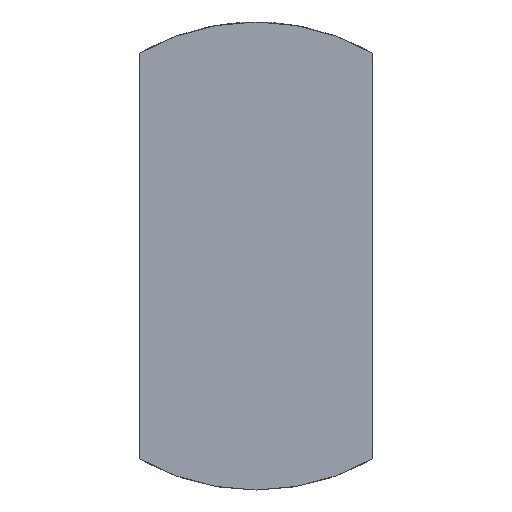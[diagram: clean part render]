
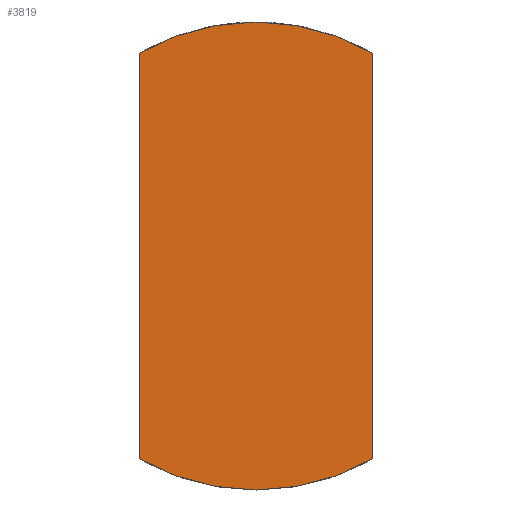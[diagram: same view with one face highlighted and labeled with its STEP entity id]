
A CAD part, front view. The second image highlights one B-rep face of the part: STEP entity #3819.
In plain terms, the highlighted planar face has unit normal (0, -1, 0).
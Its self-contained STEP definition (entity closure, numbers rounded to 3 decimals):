
#283 = LINE ( 'NONE', #3944, #923 ) ;
#587 = AXIS2_PLACEMENT_3D ( 'NONE', #3353, #3061, #3373 ) ;
#684 = DIRECTION ( 'NONE',  ( 0., -1., 0. ) ) ;
#711 = CARTESIAN_POINT ( 'NONE',  ( 0., 0., -75. ) ) ;
#815 = EDGE_CURVE ( 'NONE', #3283, #3371, #2330, .T. ) ;
#923 = VECTOR ( 'NONE', #3338, 1000. ) ;
#965 = VERTEX_POINT ( 'NONE', #2689 ) ;
#1009 = EDGE_CURVE ( 'NONE', #2394, #965, #2138, .T. ) ;
#1026 = CARTESIAN_POINT ( 'NONE',  ( 0., 0., 0. ) ) ;
#1049 = CIRCLE ( 'NONE', #1251, 75. ) ;
#1143 = CARTESIAN_POINT ( 'NONE',  ( -37.5, 0., 64.952 ) ) ;
#1169 = EDGE_LOOP ( 'NONE', ( #3797, #2317, #3417, #1820, #2373 ) ) ;
#1204 = DIRECTION ( 'NONE',  ( 0., 0., -1. ) ) ;
#1251 = AXIS2_PLACEMENT_3D ( 'NONE', #3991, #3696, #1204 ) ;
#1316 = DIRECTION ( 'NONE',  ( 0., 0., -1. ) ) ;
#1379 = AXIS2_PLACEMENT_3D ( 'NONE', #1026, #684, #1628 ) ;
#1399 = DIRECTION ( 'NONE',  ( 0., 0., -1. ) ) ;
#1523 = EDGE_CURVE ( 'NONE', #2661, #2394, #1049, .T. ) ;
#1572 = EDGE_CURVE ( 'NONE', #965, #3283, #283, .T. ) ;
#1606 = CARTESIAN_POINT ( 'NONE',  ( -37.5, 0., -64.952 ) ) ;
#1628 = DIRECTION ( 'NONE',  ( 0., 0., -1. ) ) ;
#1666 = PLANE ( 'NONE',  #1379 ) ;
#1820 = ORIENTED_EDGE ( 'NONE', *, *, #815, .T. ) ;
#1935 = DIRECTION ( 'NONE',  ( 0., -1., 0. ) ) ;
#2138 = CIRCLE ( 'NONE', #3251, 75. ) ;
#2317 = ORIENTED_EDGE ( 'NONE', *, *, #1009, .T. ) ;
#2330 = CIRCLE ( 'NONE', #587, 75. ) ;
#2345 = CARTESIAN_POINT ( 'NONE',  ( 37.5, 0., 64.952 ) ) ;
#2372 = LINE ( 'NONE', #3539, #3460 ) ;
#2373 = ORIENTED_EDGE ( 'NONE', *, *, #2835, .T. ) ;
#2394 = VERTEX_POINT ( 'NONE', #711 ) ;
#2661 = VERTEX_POINT ( 'NONE', #1606 ) ;
#2689 = CARTESIAN_POINT ( 'NONE',  ( 37.5, 0., -64.952 ) ) ;
#2835 = EDGE_CURVE ( 'NONE', #3371, #2661, #2372, .T. ) ;
#3061 = DIRECTION ( 'NONE',  ( 0., -1., 0. ) ) ;
#3165 = CARTESIAN_POINT ( 'NONE',  ( 0., 0., 0. ) ) ;
#3251 = AXIS2_PLACEMENT_3D ( 'NONE', #3165, #1935, #1316 ) ;
#3283 = VERTEX_POINT ( 'NONE', #2345 ) ;
#3338 = DIRECTION ( 'NONE',  ( 0., 0., 1. ) ) ;
#3353 = CARTESIAN_POINT ( 'NONE',  ( 0., 0., 0. ) ) ;
#3371 = VERTEX_POINT ( 'NONE', #1143 ) ;
#3373 = DIRECTION ( 'NONE',  ( 0., 0., -1. ) ) ;
#3417 = ORIENTED_EDGE ( 'NONE', *, *, #1572, .T. ) ;
#3460 = VECTOR ( 'NONE', #1399, 1000. ) ;
#3474 = FACE_OUTER_BOUND ( 'NONE', #1169, .T. ) ;
#3539 = CARTESIAN_POINT ( 'NONE',  ( -37.5, 0., 64.952 ) ) ;
#3696 = DIRECTION ( 'NONE',  ( 0., -1., 0. ) ) ;
#3797 = ORIENTED_EDGE ( 'NONE', *, *, #1523, .T. ) ;
#3819 = ADVANCED_FACE ( 'NONE', ( #3474 ), #1666, .T. ) ;
#3944 = CARTESIAN_POINT ( 'NONE',  ( 37.5, 0., -64.952 ) ) ;
#3991 = CARTESIAN_POINT ( 'NONE',  ( 0., 0., 0. ) ) ;
